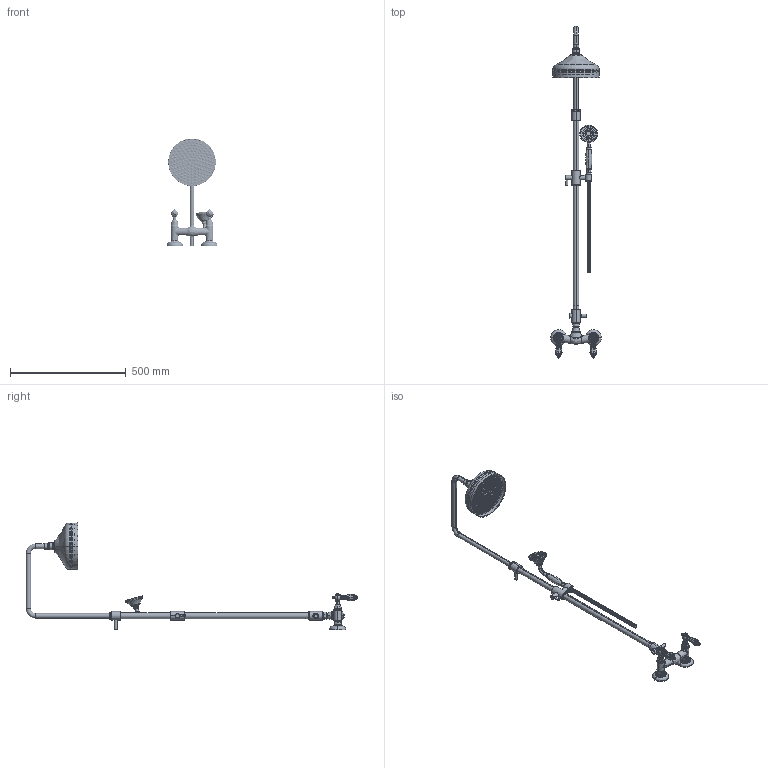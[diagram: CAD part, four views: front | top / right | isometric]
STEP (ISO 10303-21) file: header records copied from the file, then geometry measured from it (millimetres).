
FILE_DESCRIPTION((''),'2;1');
FILE_NAME('F5405_2C_FILE_3D','2013-08-05T',('ivanv'),(''),'PRO/ENGINEER BY PARAMETRIC TECHNOLOGY CORPORATION, 2012130','PRO/ENGINEER BY PARAMETRIC TECHNOLOGY CORPORATION, 2012130','');
FILE_SCHEMA(('CONFIG_CONTROL_DESIGN'));
Products named in the file (1): F5405_2C_FILE_3D
Bounding box: 220 x 1432.65 x 461.97 mm (x, y, z)
Volume: 2451582.8 mm3; surface area: 550510.4 mm2
Topology: 6 solids, 13 shells, 4194 faces, 10458 edges, 6385 vertices
Faces by surface type: plane 1836, cylinder 1334, cone 624, torus 266, bspline 114, sphere 20
Entity records: 189635 total; most frequent: CARTESIAN_POINT 90465, ORIENTED_EDGE 20884, DIRECTION 20648, EDGE_CURVE 10442, AXIS2_PLACEMENT_3D 7999, VERTEX_POINT 6385, EDGE_LOOP 4655, VECTOR 4650
